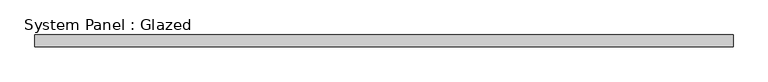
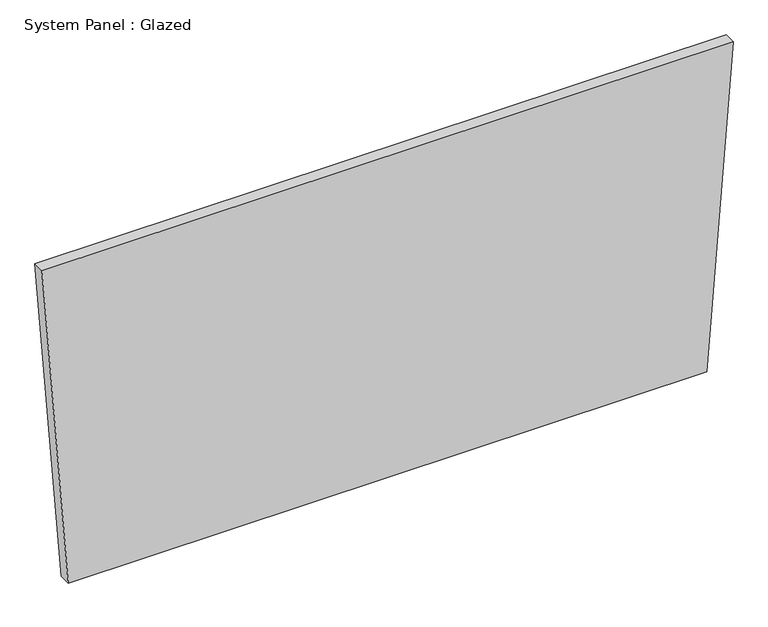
"""IFC4 building model written with IfcOpenShell, lengths in millimetres: plate geometry, System Panel : Glazed."""

import ifcopenshell
import ifcopenshell.guid

model = None  # the IFC model being written
_history = None  # IfcOwnerHistory: only IFC2X3 demands one
_inside = {}  # id of a spatial element -> (the spatial element, [elements in it])
_under = {}  # id of a project, library or spatial element -> (it, [spatial elements below it])
_declared = {}  # id of a project -> (the project, [libraries it declares])
_typed = {}  # id of a type object -> (the type object, [elements of that type])
_made_of = {}  # id of a material, layer set ... -> (it, [elements and type objects made of it])


def new_model(schema):
    """Start an empty IFC model of exactly this schema.

    Asked for "IFC4X3", IfcOpenShell would pick the latest addendum, in which some entities
    have other attributes; the version numbers below select the first issue.
    IFC2X3 requires an IfcOwnerHistory on every rooted entity: one is made here for all.
    """
    global model, _history
    if schema == "IFC4X3":
        model = ifcopenshell.file(schema_version=(4, 3, 0, 0))
    else:
        model = ifcopenshell.file(schema=schema)
    _inside.clear()
    _under.clear()
    _declared.clear()
    _typed.clear()
    _made_of.clear()
    _history = None
    if model.schema == "IFC2X3":
        org = make("IfcOrganization", Name="unknown")
        user = make(
            "IfcPersonAndOrganization",
            ThePerson=make("IfcPerson", FamilyName="unknown"),
            TheOrganization=org,
        )
        app = make(
            "IfcApplication",
            ApplicationDeveloper=org,
            Version="unknown",
            ApplicationFullName="unknown",
            ApplicationIdentifier="unknown",
        )
        _history = make(
            "IfcOwnerHistory",
            OwningUser=user,
            OwningApplication=app,
            ChangeAction="ADDED",
            CreationDate=0,
        )
    return model


def make(cls, **values):
    """One entity of the class cls with the attributes given. An attribute that is None is left unset."""
    return model.create_entity(
        cls, **{name: value for name, value in values.items() if value is not None}
    )


def rooted(cls, **values):
    """An entity with a GlobalId (a new one), such as an element, a storey or a relation."""
    return make(cls, GlobalId=ifcopenshell.guid.new(), OwnerHistory=_history, **values)


def si_unit(unit_type, name, prefix=None):
    """IfcSIUnit, for example si_unit("LENGTHUNIT", "METRE", prefix="MILLI")."""
    return make("IfcSIUnit", UnitType=unit_type, Prefix=prefix, Name=name)


def assignment(units):
    """IfcUnitAssignment: the units of a project."""
    return None if units is None else make("IfcUnitAssignment", Units=units)


def point(xyz):
    """IfcCartesianPoint."""
    return None if xyz is None else make("IfcCartesianPoint", Coordinates=xyz)


def direction(xyz):
    """IfcDirection."""
    return None if xyz is None else make("IfcDirection", DirectionRatios=xyz)


def frame(location, z_axis=None, x_axis=None):
    """IfcAxis2Placement3D, a coordinate frame: its origin and axes. An axis left out is left unset."""
    return make(
        "IfcAxis2Placement3D",
        Location=point(location),
        Axis=direction(z_axis),
        RefDirection=direction(x_axis),
    )


def origin():
    """The frame at (0, 0, 0) with its axes left unset."""
    return frame((0.0, 0.0, 0.0))


def place(relative_to, where):
    """IfcLocalPlacement: puts the frame where relative to a parent placement (None: the world)."""
    return make(
        "IfcLocalPlacement", PlacementRelTo=relative_to, RelativePlacement=where
    )


def context(
    kind, dimensions, precision=None, world=None, true_north=None, identifier=None
):
    """IfcGeometricRepresentationContext, for example the 3D "Model" context."""
    return make(
        "IfcGeometricRepresentationContext",
        ContextIdentifier=identifier,
        ContextType=kind,
        CoordinateSpaceDimension=dimensions,
        Precision=precision,
        WorldCoordinateSystem=world,
        TrueNorth=true_north,
    )


def project(units=None, contexts=None):
    """IfcProject with its units and contexts."""
    return rooted(
        "IfcProject",
        Name="project",
        RepresentationContexts=contexts,
        UnitsInContext=assignment(units),
    )


def spatial(cls, under=None, at=None, **own):
    """A site, building, storey or space (cls), placed at a placement, below another one or the project."""
    s = rooted(cls, ObjectPlacement=at, **own)
    if under is not None:
        _under.setdefault(under.id(), (under, []))[1].append(s)
    return s


def polyline(points):
    """IfcPolyline through the points."""
    return make("IfcPolyline", Points=[point(p) for p in points])


def outline(outer, holes=None, kind="AREA"):
    """IfcArbitraryClosedProfileDef: a profile drawn as a closed curve; with holes, ...WithVoids."""
    if holes is None:
        return make("IfcArbitraryClosedProfileDef", ProfileType=kind, OuterCurve=outer)
    return make(
        "IfcArbitraryProfileDefWithVoids",
        ProfileType=kind,
        OuterCurve=outer,
        InnerCurves=holes,
    )


def extrude(swept, where, along, depth):
    """IfcExtrudedAreaSolid: the profile swept, set in the frame where, extruded along a direction by depth."""
    return make(
        "IfcExtrudedAreaSolid",
        SweptArea=swept,
        Position=where,
        ExtrudedDirection=direction(along),
        Depth=depth,
    )


def shape(context_of_items, identifier, shape_type, items):
    """IfcShapeRepresentation: the items that make up one representation, for example the "Body"."""
    return make(
        "IfcShapeRepresentation",
        ContextOfItems=context_of_items,
        RepresentationIdentifier=identifier,
        RepresentationType=shape_type,
        Items=items,
    )


def source(mapping_origin, context_of_items, identifier, shape_type, items):
    """IfcRepresentationMap: a shape defined once, which mapped items show again and again."""
    return make(
        "IfcRepresentationMap",
        MappingOrigin=mapping_origin,
        MappedRepresentation=shape(context_of_items, identifier, shape_type, items),
    )


def transform(
    local_origin,
    x_axis=None,
    y_axis=None,
    z_axis=None,
    scale=None,
    scale2=None,
    scale3=None,
    uniform=True,
):
    """IfcCartesianTransformationOperator3D, or its non-uniform kind. x_axis, y_axis, z_axis: its Axis1, 2, 3."""
    if uniform:
        return make(
            "IfcCartesianTransformationOperator3D",
            Axis1=direction(x_axis),
            Axis2=direction(y_axis),
            LocalOrigin=point(local_origin),
            Scale=scale,
            Axis3=direction(z_axis),
        )
    return make(
        "IfcCartesianTransformationOperator3DnonUniform",
        Axis1=direction(x_axis),
        Axis2=direction(y_axis),
        LocalOrigin=point(local_origin),
        Scale=scale,
        Axis3=direction(z_axis),
        Scale2=scale2,
        Scale3=scale3,
    )


def mapped(mapping_source, mapping_target):
    """IfcMappedItem: shows the shape of a source again, moved by a transform."""
    return make(
        "IfcMappedItem", MappingSource=mapping_source, MappingTarget=mapping_target
    )


def made_of(thing, what):
    """Note that an element or type object is made of a material, layer set ...; save() writes the relation."""
    if what is not None:
        _made_of.setdefault(what.id(), (what, []))[1].append(thing)
    return thing


def element(
    cls,
    number,
    at=None,
    inside=None,
    cuts=None,
    type_object=None,
    material=None,
    context=None,
    identifier="Body",
    shape_type=None,
    held_by="IfcProductDefinitionShape",
    body=None,
    shapes=None,
    **own,
):
    """One element of the class cls, such as IfcWall. Its Tag is "e" and its number.

    at: its placement. inside: the storey or other place that contains it. cuts: it is an
    opening in that element (IfcRelVoidsElement). A single representation is given by context,
    identifier, shape_type and body (its items); several are given by shapes. held_by: the class
    of the entity that holds the representations. save() writes the other relations.
    """
    e = rooted(cls, Tag="e%d" % number, ObjectPlacement=at, **own)
    if body is not None:
        shapes = [shape(context, identifier, shape_type, body)]
    if shapes is not None:
        e.Representation = make(held_by, Representations=shapes)
    if inside is not None:
        _inside.setdefault(inside.id(), (inside, []))[1].append(e)
    if cuts is not None:
        rooted(
            "IfcRelVoidsElement", RelatingBuildingElement=cuts, RelatedOpeningElement=e
        )
    if type_object is not None:
        _typed.setdefault(type_object.id(), (type_object, []))[1].append(e)
    return made_of(e, material)


def aggregate(whole, parts):
    """IfcRelAggregates: a whole, such as a stair, and the parts it consists of."""
    return rooted("IfcRelAggregates", RelatingObject=whole, RelatedObjects=parts)


def save(model, path):
    """Write the relations noted so far, then the file.

    IfcRelAggregates (storeys below a building ...), IfcRelContainedInSpatialStructure (elements
    in a storey), IfcRelDefinesByType, IfcRelAssociatesMaterial and IfcRelDeclares: one each for
    every whole, place, type object, material and project.
    """
    for whole, parts in _under.values():
        aggregate(whole, parts)
    for where, things in _inside.values():
        rooted(
            "IfcRelContainedInSpatialStructure",
            RelatedElements=things,
            RelatingStructure=where,
        )
    for kind, things in _typed.values():
        rooted("IfcRelDefinesByType", RelatedObjects=things, RelatingType=kind)
    for what, things in _made_of.values():
        rooted("IfcRelAssociatesMaterial", RelatedObjects=things, RelatingMaterial=what)
    for by, libraries in _declared.values():
        rooted("IfcRelDeclares", RelatingContext=by, RelatedDefinitions=libraries)
    model.write(path)


def system_panel_glazed_0ad6e43e(model_context):
    return source(origin(), model_context, "Body", "SweptSolid", [
        extrude(outline(polyline([(0.0078962, -679.2347392), (0.0, 679.2341693), (722.7381834, 735.3292079), (722.7387373, -735.3292079), (0.0078962, -679.2347392)])), frame((0.0, 19.05, 0.0), z_axis=(0.0, 1.0, 0.0), x_axis=(0.0, 0.0, 1.0)), (0.0, 0.0, 1.0), 25.4),
    ])


if __name__ == "__main__":
    model = new_model("IFC4")
    model_context = context("Model", 3, world=origin())
    ifc_project = project(units=[si_unit("LENGTHUNIT", "METRE", prefix="MILLI")], contexts=[model_context])
    site = spatial("IfcSite", under=ifc_project)
    building = spatial("IfcBuilding", under=site)
    placement = place(None, origin())
    system_panel_glazed_shape = system_panel_glazed_0ad6e43e(model_context)
    element("IfcPlate", 1, ObjectType="System Panel : Glazed", at=placement, inside=building, context=model_context, shape_type="MappedRepresentation", body=[
        mapped(system_panel_glazed_shape, transform((0.0, 0.0, 0.0), x_axis=(1.0, 0.0, 0.0), y_axis=(0.0, 1.0, 0.0), z_axis=(0.0, 0.0, 1.0))),
    ])
    save(model, "model.ifc")
